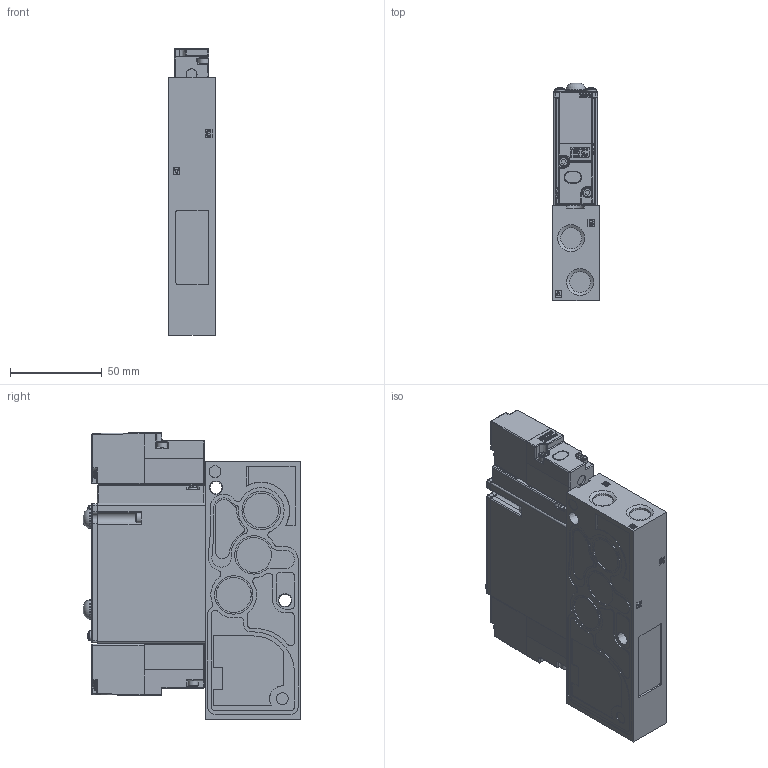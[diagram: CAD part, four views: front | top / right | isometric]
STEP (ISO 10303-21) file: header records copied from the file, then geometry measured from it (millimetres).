
FILE_DESCRIPTION (( 'STEP AP214' ), '1' );
FILE_NAME ('92A-BAA-B1K-DM-DXXP-1DM.STEP', '2019-07-05T15:20:38', ( 'user' ), ( '' ), 'SwSTEP 2.0', 'SolidWorks 2014', '' );
FILE_SCHEMA (( 'AUTOMOTIVE_DESIGN' ));
Length unit declared in the file: millimetre
Products named in the file (6): 92-PILOT-DM3; 92-BODY-BAA; 92-OVERRIDE-1; 92-OPERATOR-DXXP-YDM; 92-BASE-B1J; 92A-BAA-B1K-DM-DXXP-1DM
Assembly tree (8 placements, depth 2):
  92A-BAA-B1K-DM-DXXP-1DM
    92-BASE-B1J
    92-OPERATOR-DXXP-YDM  x2
    92-OVERRIDE-1  x2
    92-BODY-BAA
    92-PILOT-DM3  x2
Bounding box: 25.5 x 118.6 x 156.5 mm (x, y, z)
Volume: 357818.3 mm3; surface area: 84692.6 mm2
Topology: 34 solids, 34 shells, 2846 faces, 7325 edges, 4750 vertices
Faces by surface type: plane 1566, cylinder 807, cone 275, bspline 92, torus 55, sphere 51
Full cylindrical faces by diameter (mm): 0.01 x4, 0.72 x2, 0.85 x2, 0.95 x4, 1 x2, 2 x4, 2.2 x2, 2.4 x6, 2.5 x2, 2.6 x4, 2.7 x2, 2.79 x4, 3 x10, 3.15 x4, 3.25 x4, 3.3 x4, 3.35 x4, 4.775 x4, 5 x2, 5.1 x2, 5.5 x10, 5.6 x2, 6.22 x2, 6.8 x4, 6.92 x2, 7 x2, 9.5 x3, 10.13 x2, 10.5 x2, 11.008 x2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
Entity records: 90331 total; most frequent: CARTESIAN_POINT 15562, DIRECTION 10564, ORIENTED_EDGE 10524, EDGE_CURVE 5262, AXIS2_PLACEMENT_3D 3655, VERTEX_POINT 3524, LINE 3254, VECTOR 3254
